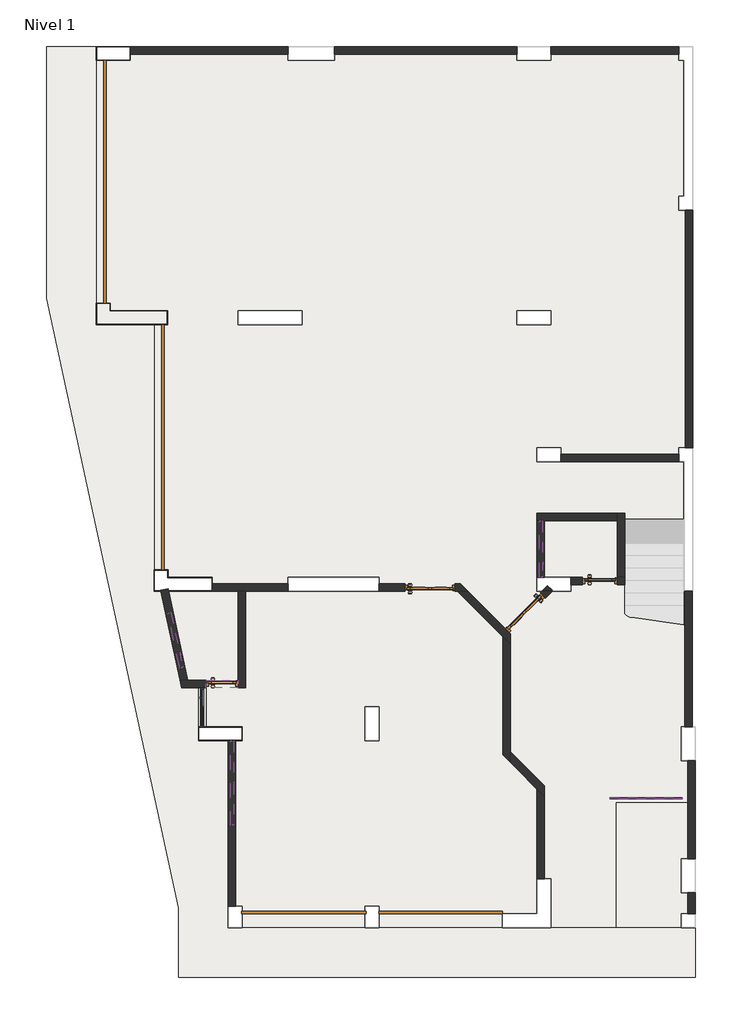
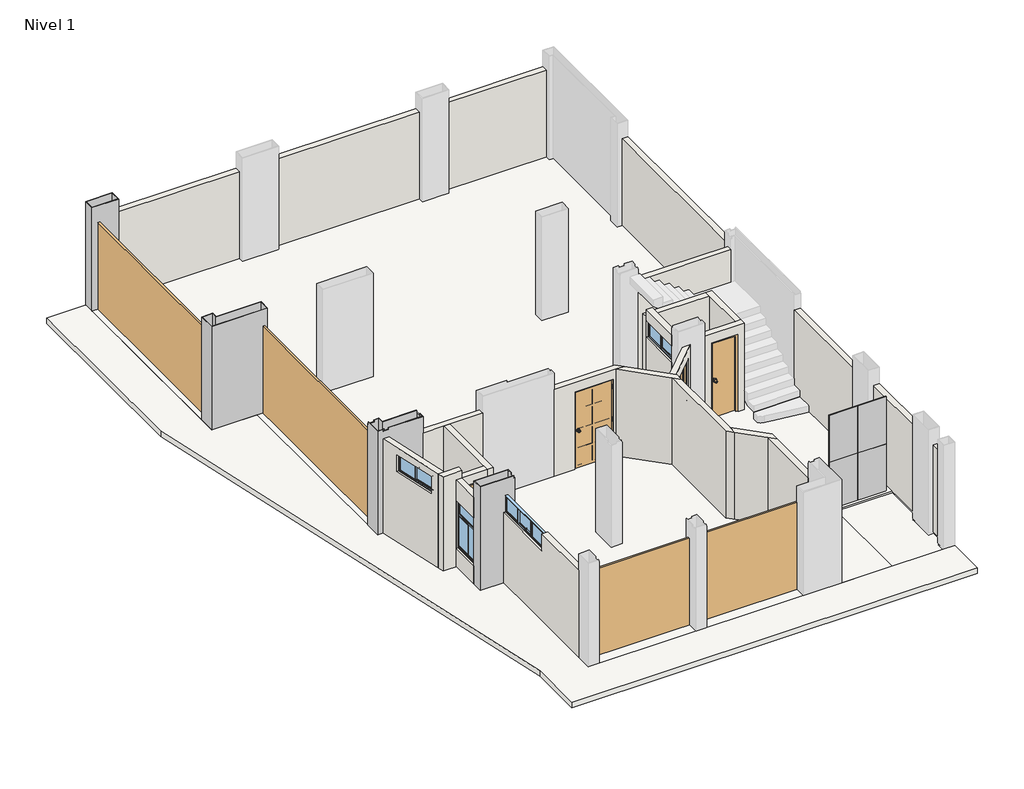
# One storey, part 1 of 2: 25 walls, 8 doors, 4 columns, 4 plates, 4 windows, 3 slabs.
"""IFC4 building model written with IfcOpenShell, lengths in millimetres."""

from ifc_helpers import new_model, si_unit, frame, origin, origin_with_axes, place, context, project, spatial, polyline, outline, extrude, faceted_brep, transform, mapped, element, save
from components import door_81789954, door_be1cc8a4, door_cacd1893, door_0d445abd, door_6a2f5d4e, door_6edd51d8, door_d9201a20, door_9dd3754a, door_557ff3ed, door_b4b427b3, puerta_interior_pi_1_00x2_10_m_4a7fa07f, puerta_interior_pi_1_00x2_10_m_31410703, puerta_interior_puerta_interior_ed458bac, puerta_interior_pi_1_00x2_10_m_50af7067, panel_de_sistema_acristalado_d56444c0, va_1_13x0_45_m_8709d312, va_1_70x0_45_m_8137b2f7, vb_0_78x1_30_f7b555fa

model = new_model("IFC4")

# Units and contexts
model_context = context("Model", 3, world=origin())
ifc_project = project(units=[si_unit("LENGTHUNIT", "METRE", prefix="MILLI")], contexts=[model_context])

# Site, building, storey
site = spatial("IfcSite", under=ifc_project)
building = spatial("IfcBuilding", under=site)
storey = spatial("IfcBuildingStorey", under=building, Name="Nivel 1", Elevation=0.0)

# Columns
placement = place(None, origin())
element("IfcColumn", 1, ObjectType="Columna L Arquitectonica : ACO_L 40x114x25 cm", at=placement, inside=storey, context=model_context, shape_type="Brep", body=[
    faceted_brep([(-1225.0, 7165.0, 0.0), (-1225.0, 7015.0, 0.0), (-335.0, 7015.0, 0.0), (-335.0, 6885.0, 0.0), (-335.0, 6735.0, 0.0), (-1505.0, 6735.0, 0.0), (-1505.0, 7165.0, 0.0), (-1240.0, 7150.0, 0.0), (-1490.0, 7150.0, 0.0), (-1490.0, 6750.0, 0.0), (-350.0, 6750.0, 0.0), (-350.0, 7000.0, 0.0), (-1240.0, 7000.0, 0.0), (-1240.0, 7150.0, 2800.0), (-1355.0, 7150.0, 2800.0), (-1355.0, 7150.0, 2750.0), (-1490.0, 7150.0, 2750.0), (-1490.0, 7150.0, 2800.0), (-1490.0, 6750.0, 2800.0), (-1331.7746495, 6750.0, 2800.0), (-1331.7746495, 6750.0, 2750.0), (-1220.1386409, 6750.0, 2750.0), (-1220.1386409, 6750.0, 2800.0), (-350.0, 6750.0, 2800.0), (-350.0, 6865.0, 2800.0), (-350.0, 6865.0, 2750.0), (-350.0, 7000.0, 2750.0), (-350.0, 7000.0, 2800.0), (-1240.0, 7000.0, 2800.0), (-1225.0, 7165.0, 2800.0), (-1225.0, 7015.0, 2800.0), (-350.0, 7015.0, 2800.0), (-350.0, 7015.0, 2750.0), (-335.0, 7015.0, 2750.0), (-335.0, 6865.0, 2750.0), (-335.0, 6865.0, 2800.0), (-335.0, 6735.0, 2800.0), (-335.0, 6735.0, 2350.0), (-1216.8940234, 6735.0, 2800.0), (-1216.8940234, 6735.0, 2750.0), (-1370.3630896, 6735.0, 2750.0), (-1370.3630896, 6735.0, 2800.0), (-1505.0, 6735.0, 2800.0), (-1505.0, 7150.0, 2800.0), (-1505.0, 7150.0, 2750.0), (-1505.0, 7165.0, 2750.0), (-1355.0, 7165.0, 2750.0), (-1355.0, 7165.0, 2800.0), (-1371.7378651, 6741.3556434, 2800.0), (-1371.7378651, 6741.3556434, 2750.0)], [[[0, 1, 2, 3, 4, 5, 6], [7, 8, 9, 10, 11, 12]], [[8, 7, 13, 14, 15, 16]], [[9, 8, 16, 17, 18]], [[10, 9, 18, 19, 20, 21, 22, 23]], [[11, 10, 23, 24, 25, 26]], [[12, 11, 26, 27, 28]], [[7, 12, 28, 13]], [[1, 0, 29, 30]], [[2, 1, 30, 31, 32, 33]], [[4, 3, 2, 33, 34, 35, 36, 37]], [[5, 4, 37, 36, 38, 39, 40, 41, 42]], [[6, 5, 42, 43, 44, 45]], [[0, 6, 45, 46, 47, 29]], [[18, 17, 43, 42, 41, 48, 19]], [[46, 15, 14, 47]], [[44, 16, 15, 46, 45]], [[16, 44, 43, 17]], [[34, 25, 24, 35]], [[32, 26, 25, 34, 33]], [[26, 32, 31, 27]], [[28, 27, 31, 30, 29, 47, 14, 13]], [[21, 39, 38, 22]], [[39, 21, 20, 49, 40]], [[49, 20, 19, 48]], [[24, 23, 22, 38, 36, 35]], [[40, 49, 48, 41]]]),
])
element("IfcColumn", 2, ObjectType="Columna L Arquitectonica : ACO_L 40x140x25 cm", at=placement, inside=storey, context=model_context, shape_type="Brep", body=[
    faceted_brep([(-2385.0, 12515.0, 0.0), (-2385.0, 12365.0, 0.0), (-1235.0, 12365.0, 0.0), (-1235.0, 12085.0, 0.0), (-2665.0, 12085.0, 0.0), (-2665.0, 12515.0, 0.0), (-2400.0, 12500.0, 0.0), (-2650.0, 12500.0, 0.0), (-2650.0, 12100.0, 0.0), (-1250.0, 12100.0, 0.0), (-1250.0, 12350.0, 0.0), (-2400.0, 12350.0, 0.0), (-2400.0, 12500.0, 2800.0), (-2650.0, 12500.0, 2800.0), (-2650.0, 12100.0, 2800.0), (-1250.0, 12100.0, 2800.0), (-1250.0, 12350.0, 2800.0), (-2400.0, 12350.0, 2800.0), (-2385.0, 12515.0, 2800.0), (-2385.0, 12365.0, 2800.0), (-1235.0, 12365.0, 2800.0), (-1235.0, 12365.0, 2750.0), (-1235.0, 12085.0, 2800.0), (-2665.0, 12085.0, 2800.0), (-2665.0, 12515.0, 2800.0), (-2665.0, 12515.0, 2750.0)], [[[0, 1, 2, 3, 4, 5], [6, 7, 8, 9, 10, 11]], [[12, 13, 7, 6]], [[13, 14, 8, 7]], [[14, 15, 9, 8]], [[15, 16, 10, 9]], [[16, 17, 11, 10]], [[17, 12, 6, 11]], [[18, 19, 1, 0]], [[19, 20, 21, 2, 1]], [[20, 22, 3, 2, 21]], [[22, 23, 4, 3]], [[23, 24, 25, 5, 4]], [[24, 18, 0, 5, 25]], [[18, 24, 23, 22, 20, 19], [12, 17, 16, 15, 14, 13]]]),
])
element("IfcColumn", 3, ObjectType="Columna Rectangular Arquitectonica : ACO_Rectangular 25x65 cm", at=placement, inside=storey, context=model_context, shape_type="Brep", body=[
    faceted_brep([(-2665.0, 17665.0, 0.0), (-1985.0, 17665.0, 0.0), (-1985.0, 17515.0, 0.0), (-1985.0, 17385.0, 0.0), (-2665.0, 17385.0, 0.0), (-2650.0, 17650.0, 0.0), (-2650.0, 17400.0, 0.0), (-2000.0, 17400.0, 0.0), (-2000.0, 17650.0, 0.0), (-2650.0, 17650.0, 2800.0), (-2650.0, 17400.0, 2800.0), (-2000.0, 17400.0, 2800.0), (-2000.0, 17650.0, 2800.0), (-2665.0, 17665.0, 2800.0), (-1985.0, 17665.0, 2800.0), (-1985.0, 17665.0, 2750.0), (-1985.0, 17665.0, 2350.0), (-1985.0, 17385.0, 2800.0), (-2665.0, 17385.0, 2800.0), (-2665.0, 17385.0, 2750.0)], [[[0, 1, 2, 3, 4], [5, 6, 7, 8]], [[9, 10, 6, 5]], [[10, 11, 7, 6]], [[11, 12, 8, 7]], [[12, 9, 5, 8]], [[13, 14, 15, 16, 1, 0]], [[14, 17, 3, 2, 1, 16, 15]], [[17, 18, 19, 4, 3]], [[18, 13, 0, 4, 19]], [[13, 18, 17, 14], [9, 12, 11, 10]]]),
])
element("IfcColumn", 4, ObjectType="Columna Rectangular Arquitectonica : ACO_Rectangular 25x85 cm", at=placement, inside=storey, context=model_context, shape_type="Brep", body=[
    faceted_brep([(265.0, 3735.0, 0.0), (135.0, 3735.0, 0.0), (-15.0, 3735.0, 0.0), (-615.0, 3735.0, 0.0), (-615.0, 4015.0, 0.0), (-465.0, 4015.0, 0.0), (265.0, 4015.0, 0.0), (250.0, 3750.0, 0.0), (250.0, 4000.0, 0.0), (-600.0, 4000.0, 0.0), (-600.0, 3750.0, 0.0), (250.0, 3750.0, 2750.0), (250.0, 3885.0, 2750.0), (250.0, 3885.0, 2800.0), (250.0, 4000.0, 2800.0), (-600.0, 4000.0, 2800.0), (-600.0, 3750.0, 2800.0), (250.0, 3750.0, 2800.0), (265.0, 3735.0, 2750.0), (250.0, 3735.0, 2750.0), (250.0, 3735.0, 2800.0), (-615.0, 3735.0, 2800.0), (-615.0, 3735.0, 2750.0), (-615.0, 4015.0, 2800.0), (-615.0, 4015.0, 2750.0), (-615.0, 4015.0, 2350.0), (-615.0, 4015.0, 1800.0), (-615.0, 4015.0, 500.0), (265.0, 4015.0, 2800.0), (265.0, 3885.0, 2800.0), (265.0, 3885.0, 2750.0)], [[[0, 1, 2, 3, 4, 5, 6], [7, 8, 9, 10]], [[8, 7, 11, 12, 13, 14]], [[9, 8, 14, 15]], [[10, 9, 15, 16]], [[7, 10, 16, 17, 11]], [[3, 2, 1, 0, 18, 19, 20, 21, 22]], [[4, 3, 22, 21, 23, 24, 25, 26, 27]], [[6, 5, 4, 27, 26, 25, 24, 23, 28]], [[0, 6, 28, 29, 30, 18]], [[15, 14, 13, 29, 28, 23, 21, 20, 17, 16]], [[12, 30, 29, 13]], [[11, 19, 18, 30, 12]], [[19, 11, 17, 20]]]),
])

# Doors
door_shape = door_81789954(model_context)
door_2_shape = door_be1cc8a4(model_context)
door_3_shape = door_cacd1893(model_context)
element("IfcDoor", 5, ObjectType="Puerta contraplacada : Puerta contraplacada 0.7x2.10 m", at=placement, inside=storey, context=model_context, shape_type="MappedRepresentation", body=[
    mapped(door_shape, transform((7448.8726271, 6940.0, 0.0), x_axis=(-1.0, 0.0, 0.0), y_axis=(0.0, -1.0, 0.0), z_axis=(0.0, 0.0, 1.0))),
    mapped(door_2_shape, transform((7448.8726271, 6940.0, 0.0), x_axis=(-1.0, 0.0, 0.0), y_axis=(0.0, -1.0, 0.0), z_axis=(0.0, 0.0, 1.0))),
    mapped(door_3_shape, transform((7448.8726271, 6940.0, 0.0), x_axis=(-1.0, 0.0, 0.0), y_axis=(0.0, -1.0, 0.0), z_axis=(0.0, 0.0, 1.0))),
])
door_4_shape = door_0d445abd(model_context)
door_5_shape = door_6a2f5d4e(model_context)
door_6_shape = door_6edd51d8(model_context)
element("IfcDoor", 6, ObjectType="Puerta contraplacada : Puerta contraplacada 0.65x2.10 m", at=placement, inside=storey, context=model_context, shape_type="MappedRepresentation", body=[
    mapped(door_4_shape, transform((-140.0, 4875.4939564, 0.0), x_axis=(-1.0, 0.0, 0.0), y_axis=(0.0, -1.0, 0.0), z_axis=(0.0, 0.0, 1.0))),
    mapped(door_5_shape, transform((-140.0, 4875.4939564, 0.0), x_axis=(-1.0, 0.0, 0.0), y_axis=(0.0, -1.0, 0.0), z_axis=(0.0, 0.0, 1.0))),
    mapped(door_6_shape, transform((-140.0, 4875.4939564, 0.0), x_axis=(-1.0, 0.0, 0.0), y_axis=(0.0, -1.0, 0.0), z_axis=(0.0, 0.0, 1.0))),
])
door_7_shape = door_d9201a20(model_context)
element("IfcDoor", 7, ObjectType="Puerta elevada articulada : Puerta Plagadiza 4.87x2.35 m", at=placement, inside=storey, context=model_context, shape_type="MappedRepresentation", body=[
    mapped(door_7_shape, transform((-2590.0, 14950.0, 0.0), x_axis=(0.0, 1.0, 0.0), y_axis=(-1.0, 0.0, 0.0), z_axis=(0.0, 0.0, 1.0))),
])
door_8_shape = door_9dd3754a(model_context)
element("IfcDoor", 8, ObjectType="Puerta elevada articulada : Puerta Plagadiza 4.92x2.35 m", at=placement, inside=storey, context=model_context, shape_type="MappedRepresentation", body=[
    mapped(door_8_shape, transform((-1430.0, 9625.0, 0.0), x_axis=(0.0, 1.0, 0.0), y_axis=(-1.0, 0.0, 0.0), z_axis=(0.0, 0.0, 1.0))),
])
door_9_shape = door_557ff3ed(model_context)
element("IfcDoor", 9, ObjectType="Puerta elevada articulada : Puerta Plagadiza 2.50x2.35 m", at=placement, inside=storey, context=model_context, shape_type="MappedRepresentation", body=[
    mapped(door_9_shape, transform((1500.0, 190.0, 0.0), x_axis=(-1.0, 0.0, 0.0), y_axis=(0.0, -1.0, 0.0), z_axis=(0.0, 0.0, 1.0))),
])
door_10_shape = door_b4b427b3(model_context)
element("IfcDoor", 10, ObjectType="Puerta elevada articulada : Puerta Plagadiza 2.47x2.35 m", at=placement, inside=storey, context=model_context, shape_type="MappedRepresentation", body=[
    mapped(door_10_shape, transform((4250.0, 190.0, 0.0), x_axis=(-1.0, 0.0, 0.0), y_axis=(0.0, -1.0, 0.0), z_axis=(0.0, 0.0, 1.0))),
])
puerta_interior_pi_1_00x2_10_m_shape = puerta_interior_pi_1_00x2_10_m_4a7fa07f(model_context)
puerta_interior_pi_1_00x2_10_m_2_shape = puerta_interior_pi_1_00x2_10_m_31410703(model_context)
puerta_interior_puerta_interior_shape = puerta_interior_puerta_interior_ed458bac(model_context)
puerta_interior_pi_1_00x2_10_m_3_shape = puerta_interior_pi_1_00x2_10_m_50af7067(model_context)
element("IfcDoor", 11, ObjectType="Puerta Interior : Puerta Interior", at=placement, inside=storey, context=model_context, shape_type="MappedRepresentation", body=[
    mapped(puerta_interior_pi_1_00x2_10_m_shape, transform((5947.5255185, 6294.2379839, 0.0), x_axis=(0.7071067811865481, 0.707106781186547, 0.0), y_axis=(-0.707106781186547, 0.7071067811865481, 0.0), z_axis=(0.0, 0.0, 1.0))),
    mapped(puerta_interior_pi_1_00x2_10_m_2_shape, transform((5947.5255185, 6294.2379839, 0.0), x_axis=(0.7071067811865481, 0.707106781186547, 0.0), y_axis=(-0.707106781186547, 0.7071067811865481, 0.0), z_axis=(0.0, 0.0, 1.0))),
    mapped(puerta_interior_puerta_interior_shape, transform((5947.5255185, 6294.2379839, 0.0), x_axis=(0.7071067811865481, 0.707106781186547, 0.0), y_axis=(-0.707106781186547, 0.7071067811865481, 0.0), z_axis=(0.0, 0.0, 1.0))),
    mapped(puerta_interior_pi_1_00x2_10_m_3_shape, transform((5947.5255185, 6294.2379839, 0.0), x_axis=(0.7071067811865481, 0.707106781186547, 0.0), y_axis=(-0.707106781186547, 0.7071067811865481, 0.0), z_axis=(0.0, 0.0, 1.0))),
])
element("IfcDoor", 12, ObjectType="Puerta Interior : Puerta Interior", at=placement, inside=storey, context=model_context, shape_type="MappedRepresentation", body=[
    mapped(puerta_interior_pi_1_00x2_10_m_shape, transform((4034.9997164, 6810.0, 0.0), x_axis=(-1.0, 0.0, 0.0), y_axis=(0.0, -1.0, 0.0), z_axis=(0.0, 0.0, 1.0))),
    mapped(puerta_interior_pi_1_00x2_10_m_2_shape, transform((4034.9997164, 6810.0, 0.0), x_axis=(-1.0, 0.0, 0.0), y_axis=(0.0, -1.0, 0.0), z_axis=(0.0, 0.0, 1.0))),
    mapped(puerta_interior_puerta_interior_shape, transform((4034.9997164, 6810.0, 0.0), x_axis=(-1.0, 0.0, 0.0), y_axis=(0.0, -1.0, 0.0), z_axis=(0.0, 0.0, 1.0))),
    mapped(puerta_interior_pi_1_00x2_10_m_3_shape, transform((4034.9997164, 6810.0, 0.0), x_axis=(-1.0, 0.0, 0.0), y_axis=(0.0, -1.0, 0.0), z_axis=(0.0, 0.0, 1.0))),
])

# Plates
panel_de_sistema_acristalado_shape = panel_de_sistema_acristalado_d56444c0(model_context)
element("IfcPlate", 13, ObjectType="Panel de sistema : Acristalado", at=placement, inside=storey, context=model_context, shape_type="MappedRepresentation", body=[
    mapped(panel_de_sistema_acristalado_shape, transform((8736.392463, 2584.9438607, 0.0), x_axis=(-1.0, 0.0, 0.0), y_axis=(0.0, -1.0, 0.0), z_axis=(0.0, 0.0, 1.0))),
])
element("IfcPlate", 14, ObjectType="Panel de sistema : Acristalado", at=placement, inside=storey, context=model_context, shape_type="MappedRepresentation", body=[
    mapped(panel_de_sistema_acristalado_shape, transform((8736.392463, 2584.9438607, 1275.0), x_axis=(-1.0, 0.0, 0.0), y_axis=(0.0, -1.0, 0.0), z_axis=(0.0, 0.0, 1.0))),
])
element("IfcPlate", 15, ObjectType="Panel de sistema : Acristalado", at=placement, inside=storey, context=model_context, shape_type="MappedRepresentation", body=[
    mapped(panel_de_sistema_acristalado_shape, transform((8009.177389, 2584.9438607, 0.0), x_axis=(-1.0, 0.0, 0.0), y_axis=(0.0, -1.0, 0.0), z_axis=(0.0, 0.0, 1.0))),
])
element("IfcPlate", 16, ObjectType="Panel de sistema : Acristalado", at=placement, inside=storey, context=model_context, shape_type="MappedRepresentation", body=[
    mapped(panel_de_sistema_acristalado_shape, transform((8009.177389, 2584.9438607, 1275.0), x_axis=(-1.0, 0.0, 0.0), y_axis=(0.0, -1.0, 0.0), z_axis=(0.0, 0.0, 1.0))),
])

# Slabs
element("IfcSlab", 17, ObjectType="Vereda e=15 cm", at=placement, inside=storey, context=model_context, shape_type="SweptSolid", body=[
    extrude(outline(polyline([(-2665.0, 12085.0), (-1505.0, 12085.0), (-1505.0, 6735.0), (-1368.2179086, 6735.0), (-948.8410299, 4800.4939564), (-615.0, 4800.4939564), (-615.0, 3735.0), (-15.0, 3735.0), (-15.0, -15.0), (9365.0, -15.0), (9365.0, -1015.0), (-1015.0, -1015.0), (-1015.0, 385.7129846), (-3665.0, 12609.6606446), (-3665.0, 17665.0), (-2665.0, 17665.0), (-2665.0, 12085.0)])), frame((0.0, 0.0, -150.0), z_axis=(0.0, 0.0, 1.0), x_axis=(1.0, 0.0, 0.0)), (0.0, 0.0, 1.0), 150.0),
])
element("IfcSlab", 18, ObjectType="Area Verde", at=placement, inside=storey, context=model_context, shape_type="SweptSolid", body=[
    extrude(outline(polyline([(7765.0, 2506.1938607), (9215.0, 2506.1938607), (9215.0, 1365.0), (9085.0, 1365.0), (9085.0, 685.0), (9215.0, 685.0), (9215.0, 265.0), (9085.0, 265.0), (9085.0, -15.0), (7765.0, -15.0), (7765.0, 2506.1938607)])), frame((0.0, 0.0, -100.0), z_axis=(0.0, 0.0, 1.0), x_axis=(1.0, 0.0, 0.0)), (0.0, 0.0, 1.0), 50.0),
])
element("IfcSlab", 19, ObjectType="Piso Acabado 5cm", at=placement, inside=storey, context=model_context, shape_type="SweptSolid", body=[
    extrude(outline(polyline([(-1985.0, 17385.0), (-1985.0, 17515.0), (1185.0, 17515.0), (1185.0, 17385.0), (2115.0, 17385.0), (2115.0, 17515.0), (5785.0, 17515.0), (5785.0, 17385.0), (6465.0, 17385.0), (6465.0, 17515.0), (9035.0, 17515.0), (9035.0, 17385.0), (9135.0, 17385.0), (9135.0, 14665.0), (9035.0, 14665.0), (9035.0, 14385.0), (9165.0, 14385.0), (9165.0, 9615.0), (9035.0, 9615.0), (9035.0, 9485.0), (6665.0, 9485.0), (6665.0, 9615.0), (6185.0, 9615.0), (6185.0, 9335.0), (9135.0, 9335.0), (9135.0, 6735.0), (9150.0, 6735.0), (9150.0, 4015.0), (9085.0, 4015.0), (9085.0, 3335.0), (9215.0, 3335.0), (9215.0, 2504.9438607), (7765.0, 2504.9438607), (7765.0, -15.0), (6465.0, -15.0), (6465.0, 965.0), (6335.0, 965.0), (6335.0, 2827.078432), (5650.0005808, 3512.0778512), (5650.0005808, 5884.6561404), (4649.6567212, 6885.0), (4534.9997164, 6885.0), (4534.9997164, 6735.0), (4587.524049, 6735.0), (5500.0005808, 5822.5263126), (5500.0005808, 3449.9458168), (6185.0, 2764.9463976), (6185.0, 265.0), (5485.0, 265.0), (5485.0, -15.0), (3015.0, -15.0), (3015.0, 415.0), (2735.0, 415.0), (2735.0, -15.0), (265.0, -15.0), (265.0, 415.0), (135.0, 415.0), (135.0, 3735.0), (265.0, 3735.0), (265.0, 4015.0), (-465.0, 4015.0), (-465.0, 4950.4939564), (-827.8748702, 4950.4939564), (-1214.7336123, 6735.0), (185.0, 6735.0), (185.0, 4800.4939564), (335.0, 4800.4939564), (335.0, 6735.0), (3534.9997164, 6735.0), (3534.9997164, 6885.0), (3015.0, 6885.0), (3015.0, 7015.0), (1185.0, 7015.0), (1185.0, 6885.0), (-335.0, 6885.0), (-335.0, 7015.0), (-1225.0, 7015.0), (-1225.0, 7165.0), (-1505.0, 7165.0), (-1505.0, 12085.0), (-2665.0, 12085.0), (-2665.0, 17385.0), (-1985.0, 17385.0)]), holes=[polyline([(1465.0, 12365.0), (185.0, 12365.0), (185.0, 12085.0), (1465.0, 12085.0), (1465.0, 12365.0)]), polyline([(6465.0, 12365.0), (5785.0, 12365.0), (5785.0, 12085.0), (6465.0, 12085.0), (6465.0, 12365.0)]), polyline([(3015.0, 4415.0), (2735.0, 4415.0), (2735.0, 3735.0), (3015.0, 3735.0), (3015.0, 4415.0)]), polyline([(7098.8726271, 7015.0), (6335.0, 7015.0), (6335.0, 8153.017495), (7798.8726271, 8153.017495), (7798.8726271, 6865.0), (7948.8726271, 6865.0), (7948.8726271, 8303.017495), (6185.0, 8303.017495), (6185.0, 6735.0), (6282.2215174, 6735.0), (6248.0459005, 6700.8243831), (6354.1119176, 6594.7583659), (6494.3535517, 6735.0), (6865.0, 6735.0), (6865.0, 6865.0), (7098.8726271, 6865.0), (7098.8726271, 7015.0)])]), frame((0.0, 0.0, -50.0), z_axis=(0.0, 0.0, 1.0), x_axis=(1.0, 0.0, 0.0)), (0.0, 0.0, 1.0), 50.0),
])

# Walls
element("IfcWall", 20, ObjectType="AMS_Muro Interior-Exterior, e=15 cm", at=placement, inside=storey, context=model_context, shape_type="SweptSolid", body=[
    extrude(outline(polyline([(1185.0, 17515.0), (-1985.0, 17515.0), (-1985.0, 17665.0), (1185.0, 17665.0), (1185.0, 17515.0)])), origin_with_axes(), (0.0, 0.0, 1.0), 2350.0),
])
element("IfcWall", 21, ObjectType="AMS_Muro Interior-Exterior, e=15 cm", at=placement, inside=storey, context=model_context, shape_type="SweptSolid", body=[
    extrude(outline(polyline([(2115.0, 17665.0), (5785.0, 17665.0), (5785.0, 17515.0), (2115.0, 17515.0), (2115.0, 17665.0)])), origin_with_axes(), (0.0, 0.0, 1.0), 2350.0),
])
element("IfcWall", 22, ObjectType="AMS_Muro Interior-Exterior, e=15 cm", at=placement, inside=storey, context=model_context, shape_type="SweptSolid", body=[
    extrude(outline(polyline([(9035.0, 17515.0), (6465.0, 17515.0), (6465.0, 17665.0), (9035.0, 17665.0), (9035.0, 17515.0)])), origin_with_axes(), (0.0, 0.0, 1.0), 2350.0),
])
element("IfcWall", 23, ObjectType="AMS_Muro Interior-Exterior, e=15 cm", at=placement, inside=storey, context=model_context, shape_type="SweptSolid", body=[
    extrude(outline(polyline([(9165.0, 9615.0), (9165.0, 14385.0), (9315.0, 14385.0), (9315.0, 9615.0), (9165.0, 9615.0)])), origin_with_axes(), (0.0, 0.0, 1.0), 2350.0),
])
element("IfcWall", 24, ObjectType="AMS_Muro Interior-Exterior, e=15 cm", at=placement, inside=storey, context=model_context, shape_type="SweptSolid", body=[
    extrude(outline(polyline([(9150.0, 4015.0), (9150.0, 6735.0), (9300.0, 6735.0), (9300.0, 4015.0), (9150.0, 4015.0)])), origin_with_axes(), (0.0, 0.0, 1.0), 2350.0),
])
element("IfcWall", 25, ObjectType="AMS_Muro Interior-Exterior, e=15 cm", at=placement, inside=storey, context=model_context, shape_type="SweptSolid", body=[
    extrude(outline(polyline([(3735.0, 0.0), (415.0, 0.0), (415.0, 2350.0), (2035.0, 2350.0), (2035.0, 1900.0), (3735.0, 1900.0), (3735.0, 0.0)])), frame((-15.0, 0.0, 0.0), z_axis=(1.0, 0.0, 0.0), x_axis=(0.0, 1.0, 0.0)), (0.0, 0.0, 1.0), 150.0),
])
element("IfcWall", 26, ObjectType="AMS_Muro Interior-Exterior, e=15 cm", at=placement, inside=storey, context=model_context, shape_type="SweptSolid", body=[
    extrude(outline(polyline([(4800.4939564, 0.0), (4015.0, 0.0), (4015.0, 500.0), (4795.0, 500.0), (4795.0, 1800.0), (4015.0, 1800.0), (4015.0, 2350.0), (4800.4939564, 2350.0), (4800.4939564, 0.0)])), frame((-615.0, 0.0, 0.0), z_axis=(1.0, 0.0, 0.0), x_axis=(0.0, 1.0, 0.0)), (0.0, 0.0, 1.0), 150.0),
])
element("IfcWall", 27, ObjectType="AMS_Muro Interior-Exterior, e=15 cm", at=placement, inside=storey, context=model_context, shape_type="Brep", body=[
    faceted_brep([(-465.0, 4950.4939564, 0.0), (-827.8748702, 4950.4939564, 0.0), (-981.3591665, 4950.4939564, 0.0), (-981.3591665, 4950.4939564, 2550.0), (-827.8748702, 4950.4939564, 2550.0), (-465.0, 4950.4939564, 2550.0), (-465.0, 4950.4939564, 2350.0), (-465.0, 4950.4939564, 2100.0), (-465.0, 4800.4939564, 0.0), (-465.0, 4800.4939564, 2350.0), (-465.0, 4800.4939564, 2550.0), (-948.8410299, 4800.4939564, 2550.0), (-948.8410299, 4800.4939564, 0.0), (-615.0, 4800.4939564, 0.0)], [[[0, 1, 2, 3, 4, 5, 6, 7]], [[8, 9, 10, 11, 12, 13]], [[2, 1, 0, 8, 13, 12]], [[5, 4, 3, 11, 10]], [[0, 7, 6, 5, 10, 9, 8]], [[3, 2, 12, 11]]]),
])
element("IfcWall", 28, ObjectType="AMS_Muro Interior-Exterior, e=15 cm", at=placement, inside=storey, context=model_context, shape_type="Brep", body=[
    faceted_brep([(-827.8748702, 4950.4939564, 0.0), (-1224.9981738, 6782.3484766, 0.0), (-1224.9981738, 6782.3484766, 2550.0), (-827.8748702, 4950.4939564, 2550.0), (-884.9529019, 5213.784097, 1900.0), (-884.9529019, 5213.784097, 2350.0), (-1124.3617227, 6318.1316042, 2350.0), (-1124.3617227, 6318.1316042, 1900.0), (-981.3591665, 4950.4939564, 0.0), (-981.3591665, 4950.4939564, 2550.0), (-1371.5929757, 6750.5685447, 2550.0), (-1371.5929757, 6750.5685447, 0.0), (-1031.5477038, 5182.0041651, 1900.0), (-1270.9565245, 6286.3516722, 1900.0), (-1270.9565245, 6286.3516722, 2350.0), (-1031.5477038, 5182.0041651, 2350.0)], [[[0, 1, 2, 3], [4, 5, 6, 7]], [[8, 9, 10, 11], [12, 13, 14, 15]], [[1, 0, 8, 11]], [[2, 1, 11, 10]], [[3, 2, 10, 9]], [[0, 3, 9, 8]], [[5, 4, 12, 15]], [[6, 5, 15, 14]], [[7, 6, 14, 13]], [[4, 7, 13, 12]]]),
])
element("IfcWall", 29, ObjectType="AMS_Muro Interior-Interior, e=15 cm", at=placement, inside=storey, context=model_context, shape_type="Brep", body=[
    faceted_brep([(-335.0, 6735.0, 0.0), (185.0, 6735.0, 0.0), (335.0, 6735.0, 0.0), (1185.0, 6735.0, 0.0), (1185.0, 6735.0, 2350.0), (335.0, 6735.0, 2350.0), (185.0, 6735.0, 2350.0), (-335.0, 6735.0, 2350.0), (-335.0, 6885.0, 0.0), (-335.0, 6885.0, 2350.0), (1185.0, 6885.0, 2350.0), (1185.0, 6885.0, 0.0)], [[[0, 1, 2, 3, 4, 5, 6, 7]], [[8, 9, 10, 11]], [[3, 2, 1, 0, 8, 11]], [[4, 3, 11, 10]], [[7, 6, 5, 4, 10, 9]], [[0, 7, 9, 8]]]),
])
element("IfcWall", 30, ObjectType="AMS_Muro Interior-Interior, e=15 cm", at=placement, inside=storey, context=model_context, shape_type="Brep", body=[
    faceted_brep([(185.0, 6735.0, 0.0), (185.0, 4800.4939564, 0.0), (185.0, 4800.4939564, 2100.0), (185.0, 4800.4939564, 2350.0), (185.0, 4950.4939564, 2350.0), (185.0, 6735.0, 2350.0), (335.0, 6735.0, 0.0), (335.0, 6735.0, 2350.0), (335.0, 4800.4939564, 2350.0), (335.0, 4800.4939564, 0.0)], [[[0, 1, 2, 3, 4, 5]], [[6, 7, 8, 9]], [[1, 0, 6, 9]], [[5, 4, 3, 8, 7]], [[0, 5, 7, 6]], [[3, 2, 1, 9, 8]]]),
])
element("IfcWall", 31, ObjectType="AMS_Muro Interior-Interior, e=15 cm", at=placement, inside=storey, context=model_context, shape_type="SweptSolid", body=[
    extrude(outline(polyline([(185.0, 4800.4939564), (-465.0, 4800.4939564), (-465.0, 4950.4939564), (185.0, 4950.4939564), (185.0, 4800.4939564)])), frame((0.0, 0.0, 2100.0), z_axis=(0.0, 0.0, 1.0), x_axis=(1.0, 0.0, 0.0)), (0.0, 0.0, 1.0), 250.0),
])
element("IfcWall", 32, ObjectType="AMS_Muro Interior-Interior, e=15 cm", at=placement, inside=storey, context=model_context, shape_type="Brep", body=[
    faceted_brep([(4799.656414, 6735.0, 2350.0), (4587.524049, 6735.0, 2350.0), (3015.0, 6735.0, 2350.0), (3015.0, 6735.0, 0.0), (3534.9997164, 6735.0, 0.0), (3534.9997164, 6735.0, 2100.0), (4534.9997164, 6735.0, 2100.0), (4534.9997164, 6735.0, 0.0), (4587.524049, 6735.0, 0.0), (4799.656414, 6735.0, 0.0), (3015.0, 6885.0, 2350.0), (4649.6559465, 6885.0, 2350.0), (4649.6559465, 6885.0, 0.0), (4534.9997164, 6885.0, 0.0), (4534.9997164, 6885.0, 2100.0), (3534.9997164, 6885.0, 2100.0), (3534.9997164, 6885.0, 0.0), (3015.0, 6885.0, 0.0)], [[[0, 1, 2, 3, 4, 5, 6, 7, 8, 9]], [[10, 11, 12, 13, 14, 15, 16, 17]], [[3, 17, 16, 4]], [[12, 9, 8, 7, 13]], [[2, 1, 0, 11, 10]], [[3, 2, 10, 17]], [[0, 9, 12, 11]], [[15, 5, 4, 16]], [[5, 15, 14, 6]], [[6, 14, 13, 7]]]),
])
element("IfcWall", 33, ObjectType="AMS_Muro Interior-Interior, e=15 cm", at=placement, inside=storey, context=model_context, shape_type="Brep", body=[
    faceted_brep([(4587.524049, 6735.0, 0.0), (5500.0005808, 5822.5263126, 0.0), (5650.0005808, 5672.5267802, 0.0), (5650.0005808, 5672.5267802, 2350.0), (5500.0005808, 5822.5263126, 2350.0), (4587.524049, 6735.0, 2350.0), (4799.656414, 6735.0, 2350.0), (5540.9401211, 5993.7186037, 2350.0), (5647.0063036, 5887.6527518, 2350.0), (5650.0005808, 5884.6584839, 2350.0), (5650.0005808, 5884.6584839, 0.0), (5647.0063036, 5887.6527518, 0.0), (5540.9401211, 5993.7186037, 0.0), (4799.656414, 6735.0, 0.0)], [[[0, 1, 2, 3, 4, 5]], [[6, 7, 8, 9, 10, 11, 12, 13]], [[2, 1, 0, 13, 12, 11, 10]], [[5, 4, 3, 9, 8, 7, 6]], [[0, 5, 6, 13]], [[3, 2, 10, 9]]]),
])
element("IfcWall", 34, ObjectType="AMS_Muro Interior-Interior, e=15 cm", at=placement, inside=storey, context=model_context, shape_type="Brep", body=[
    faceted_brep([(5500.0005808, 5822.5263126, 0.0), (5500.0005808, 3449.9458168, 0.0), (5500.0005808, 3449.9458168, 2350.0), (5500.0005808, 5822.5263126, 2350.0), (5650.0005808, 5672.5267802, 0.0), (5650.0005808, 5672.5267802, 2350.0), (5650.0005808, 3512.0778512, 2350.0), (5650.0005808, 3299.9458168, 2350.0), (5650.0005808, 3299.9458168, 0.0), (5650.0005808, 3512.0778512, 0.0)], [[[0, 1, 2, 3]], [[4, 5, 6, 7, 8, 9]], [[1, 0, 4, 9, 8]], [[3, 2, 7, 6, 5]], [[0, 3, 5, 4]], [[2, 1, 8, 7]]]),
])
element("IfcWall", 35, ObjectType="AMS_Muro Interior-Interior, e=15 cm", at=placement, inside=storey, context=model_context, shape_type="Brep", body=[
    faceted_brep([(5650.0005808, 3299.9458168, 0.0), (6185.0, 2764.9463976, 0.0), (6335.0, 2614.9463976, 0.0), (6335.0, 2614.9463976, 2350.0), (6185.0, 2764.9463976, 2350.0), (5650.0005808, 3299.9458168, 2350.0), (5650.0005808, 3512.0778512, 0.0), (5650.0005808, 3512.0778512, 2350.0), (6335.0, 2827.078432, 2350.0), (6335.0, 2827.078432, 0.0)], [[[0, 1, 2, 3, 4, 5]], [[6, 7, 8, 9]], [[2, 1, 0, 6, 9]], [[5, 4, 3, 8, 7]], [[0, 5, 7, 6]], [[3, 2, 9, 8]]]),
])
element("IfcWall", 36, ObjectType="AMS_Muro Interior-Interior, e=15 cm", at=placement, inside=storey, context=model_context, shape_type="SweptSolid", body=[
    extrude(outline(polyline([(6335.0, 2614.9463976), (6335.0, 965.0), (6185.0, 965.0), (6185.0, 2764.9463976), (6335.0, 2614.9463976)])), origin_with_axes(), (0.0, 0.0, 1.0), 2350.0),
])
element("IfcWall", 37, ObjectType="AMS_Muro Interior-Interior, e=15 cm", at=placement, inside=storey, context=model_context, shape_type="Brep", body=[
    faceted_brep([(7948.8726271, 6865.0, 2350.0), (6865.0, 6865.0, 2350.0), (6865.0, 6865.0, 0.0), (7098.8726271, 6865.0, 0.0), (7098.8726271, 6865.0, 2100.0), (7798.8726271, 6865.0, 2100.0), (7798.8726271, 6865.0, 0.0), (7948.8726271, 6865.0, 0.0), (6865.0, 7015.0, 2350.0), (7798.8726271, 7015.0, 2350.0), (7948.8726271, 7015.0, 2350.0), (7948.8726271, 7015.0, 0.0), (7798.8726271, 7015.0, 0.0), (7798.8726271, 7015.0, 2100.0), (7098.8726271, 7015.0, 2100.0), (7098.8726271, 7015.0, 0.0), (6865.0, 7015.0, 0.0)], [[[0, 1, 2, 3, 4, 5, 6, 7]], [[8, 9, 10, 11, 12, 13, 14, 15, 16]], [[2, 16, 15, 3]], [[11, 7, 6, 12]], [[1, 0, 10, 9, 8]], [[2, 1, 8, 16]], [[0, 7, 11, 10]], [[14, 4, 3, 15]], [[4, 14, 13, 5]], [[5, 13, 12, 6]]]),
])
element("IfcWall", 38, ObjectType="AMS_Muro Interior-Interior, e=15 cm", at=placement, inside=storey, context=model_context, shape_type="Brep", body=[
    faceted_brep([(7948.8726271, 7015.0, 0.0), (7948.8726271, 8303.017495, 0.0), (7948.8726271, 8303.017495, 2350.0), (7948.8726271, 7015.0, 2350.0), (7798.8726271, 7015.0, 0.0), (7798.8726271, 7015.0, 2350.0), (7798.8726271, 8153.017495, 2350.0), (7798.8726271, 8303.017495, 2350.0), (7798.8726271, 8303.017495, 0.0), (7798.8726271, 8153.017495, 0.0)], [[[0, 1, 2, 3]], [[4, 5, 6, 7, 8, 9]], [[1, 0, 4, 9, 8]], [[3, 2, 7, 6, 5]], [[0, 3, 5, 4]], [[2, 1, 8, 7]]]),
])
element("IfcWall", 39, ObjectType="AMS_Muro Interior-Interior, e=15 cm", at=placement, inside=storey, context=model_context, shape_type="Brep", body=[
    faceted_brep([(7798.8726271, 8303.017495, 0.0), (6185.0, 8303.017495, 0.0), (6185.0, 8303.017495, 2350.0), (7798.8726271, 8303.017495, 2350.0), (7798.8726271, 8153.017495, 0.0), (7798.8726271, 8153.017495, 2350.0), (6185.0, 8153.017495, 2350.0), (6185.0, 8153.017495, 0.0), (6335.0, 8153.017495, 0.0)], [[[0, 1, 2, 3]], [[4, 5, 6, 7, 8]], [[1, 0, 4, 8, 7]], [[3, 2, 6, 5]], [[2, 1, 7, 6]], [[0, 3, 5, 4]]]),
])
element("IfcWall", 40, ObjectType="AMS_Muro Interior-Interior, e=15 cm", at=placement, inside=storey, context=model_context, shape_type="Brep", body=[
    faceted_brep([(6335.0, 7015.0, 0.0), (6335.0, 8153.017495, 0.0), (6335.0, 8153.017495, 2550.0), (6335.0, 7015.0, 2550.0), (6335.0, 7015.0, 2250.0), (6335.0, 8145.0, 2250.0), (6335.0, 8145.0, 1800.0), (6335.0, 7015.0, 1800.0), (6185.0, 8153.017495, 0.0), (6185.0, 7015.0, 0.0), (6185.0, 7015.0, 1800.0), (6185.0, 8145.0, 1800.0), (6185.0, 8145.0, 2250.0), (6185.0, 7015.0, 2250.0), (6185.0, 7015.0, 2550.0), (6185.0, 8153.017495, 2550.0), (6185.0, 8153.017495, 2350.0)], [[[0, 1, 2, 3, 4, 5, 6, 7]], [[8, 9, 10, 11, 12, 13, 14, 15, 16]], [[1, 0, 9, 8]], [[3, 2, 15, 14]], [[3, 14, 13, 4]], [[9, 0, 7, 10]], [[2, 1, 8, 16, 15]], [[6, 11, 10, 7]], [[12, 5, 4, 13]], [[11, 6, 5, 12]]]),
])
element("IfcWall", 41, ObjectType="AMS_Muro Interior-Interior, e=15 cm", at=placement, inside=storey, context=model_context, shape_type="SweptSolid", body=[
    extrude(outline(polyline([(9035.0, 9335.0), (6665.0, 9335.0), (6665.0, 9485.0), (9035.0, 9485.0), (9035.0, 9335.0)])), origin_with_axes(), (0.0, 0.0, 1.0), 2450.0),
])
element("IfcWall", 42, ObjectType="AMS_Muro Interior-Interior, e=15 cm", at=placement, inside=storey, context=model_context, shape_type="Brep", body=[
    faceted_brep([(6354.1119176, 6594.7583659, 2100.0), (6354.1119176, 6594.7583659, 0.0), (6494.3535517, 6735.0, 0.0), (6494.3535517, 6735.0, 2350.0), (5647.0063036, 5887.6527518, 2350.0), (5647.0063036, 5887.6527518, 2100.0), (6248.0459005, 6700.8243831, 0.0), (6248.0459005, 6700.8243831, 2100.0), (5540.9401211, 5993.7186037, 2100.0), (5540.9401211, 5993.7186037, 2350.0), (6282.2215174, 6735.0, 2350.0), (6282.2215174, 6735.0, 0.0)], [[[0, 1, 2, 3, 4, 5]], [[6, 7, 8, 9, 10, 11]], [[1, 6, 11, 2]], [[9, 4, 3, 10]], [[4, 9, 8, 5]], [[0, 7, 6, 1]], [[7, 0, 5, 8]], [[3, 2, 11, 10]]]),
    faceted_brep([(6393.0038751, 6845.7823577, 2350.0), (6393.0038751, 6845.7823577, 0.0), (6297.2215174, 6750.0, 0.0), (6297.2215174, 6750.0, 2350.0), (6488.7862327, 6750.0, 0.0), (6488.7862327, 6750.0, 2350.0)], [[[0, 1, 2, 3]], [[2, 1, 4]], [[1, 0, 5, 4]], [[0, 3, 5]], [[3, 2, 4, 5]]]),
])
element("IfcWall", 43, ObjectType="AMS_Muro Interior-Exterior, e=15 cm", at=placement, inside=storey, context=model_context, shape_type="SweptSolid", body=[
    extrude(outline(polyline([(9365.0, 3335.0), (9365.0, 1365.0), (9215.0, 1365.0), (9215.0, 3335.0), (9365.0, 3335.0)])), origin_with_axes(), (0.0, 0.0, 1.0), 2350.0),
])
element("IfcWall", 44, ObjectType="AMS_Muro Interior-Exterior, e=15 cm", at=placement, inside=storey, context=model_context, shape_type="SweptSolid", body=[
    extrude(outline(polyline([(9215.0, 265.0), (9215.0, 685.0), (9365.0, 685.0), (9365.0, 265.0), (9215.0, 265.0)])), origin_with_axes(), (0.0, 0.0, 1.0), 2350.0),
])

# Windows
va_1_13x0_45_m_shape = va_1_13x0_45_m_8709d312(model_context)
element("IfcWindow", 45, ObjectType="Ventana alta corrediza 2 cuerpos : VA 1.13x0.45 m", at=placement, inside=storey, context=model_context, shape_type="MappedRepresentation", body=[
    mapped(va_1_13x0_45_m_shape, transform((6260.0, 7580.0, 200.0), x_axis=(0.0, 1.0, 0.0), y_axis=(-1.0, 0.0, 0.0), z_axis=(0.0, 0.0, 1.0))),
])
element("IfcWindow", 46, ObjectType="Ventana alta corrediza 2 cuerpos : VA 1.13x0.45 m", at=placement, inside=storey, context=model_context, shape_type="MappedRepresentation", body=[
    mapped(va_1_13x0_45_m_shape, transform((-1077.9547132, 5750.0678846, 300.0), x_axis=(-0.21186621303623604, 0.9772986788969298, 0.0), y_axis=(-0.9772986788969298, -0.21186621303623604, 0.0), z_axis=(0.0, 0.0, 1.0))),
])
va_1_70x0_45_m_shape = va_1_70x0_45_m_8137b2f7(model_context)
element("IfcWindow", 47, ObjectType="Ventana alta corrediza 3 cuerpos : VA 1.70x0.45 m", at=placement, inside=storey, context=model_context, shape_type="MappedRepresentation", body=[
    mapped(va_1_70x0_45_m_shape, transform((60.0, 2885.0, 100.0), x_axis=(0.0, 1.0, 0.0), y_axis=(-1.0, 0.0, 0.0), z_axis=(0.0, 0.0, 1.0))),
])
vb_0_78x1_30_shape = vb_0_78x1_30_f7b555fa(model_context)
element("IfcWindow", 48, ObjectType="Ventana baja corrediza 2 cuerpos : VB 0.78X1.30", at=placement, inside=storey, context=model_context, shape_type="MappedRepresentation", body=[
    mapped(vb_0_78x1_30_shape, transform((-540.0, 4405.0, -400.0), x_axis=(0.0, -1.0, 0.0), y_axis=(1.0, 0.0, 0.0), z_axis=(0.0, 0.0, 1.0))),
])

save(model, "model.ifc")
